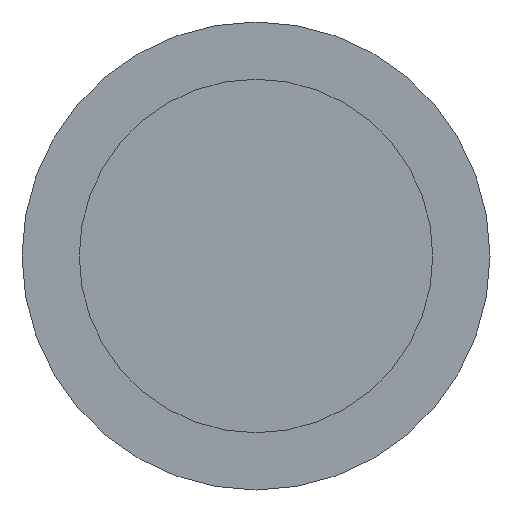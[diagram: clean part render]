
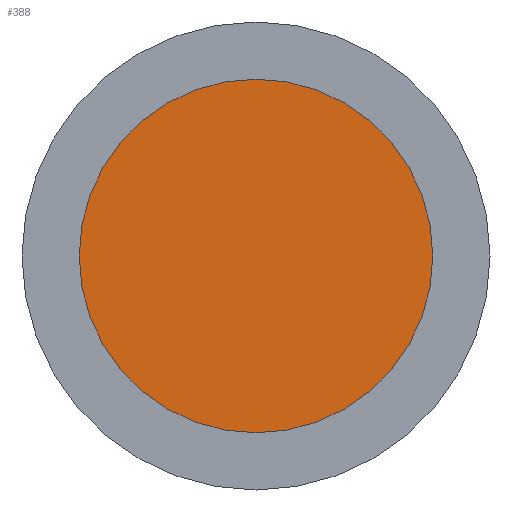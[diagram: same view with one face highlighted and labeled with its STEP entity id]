
A CAD part, front view. The second image highlights one B-rep face of the part: STEP entity #388.
In plain terms, the highlighted planar face has unit normal (0, -1, 0).
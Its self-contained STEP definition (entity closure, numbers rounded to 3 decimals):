
#345 = VERTEX_POINT('',#346);
#346 = CARTESIAN_POINT('',(12.5,-16.7,24.9));
#352 = EDGE_CURVE('',#345,#345,#353,.T.);
#353 = CIRCLE('',#354,3.4);
#354 = AXIS2_PLACEMENT_3D('',#355,#356,#357);
#355 = CARTESIAN_POINT('',(12.5,-16.7,21.5));
#356 = DIRECTION('',(0.,1.,0.));
#357 = DIRECTION('',(0.,0.,1.));
#388 = ADVANCED_FACE('',(#389),#392,.F.);
#389 = FACE_BOUND('',#390,.T.);
#390 = EDGE_LOOP('',(#391));
#391 = ORIENTED_EDGE('',*,*,#352,.F.);
#392 = PLANE('',#393);
#393 = AXIS2_PLACEMENT_3D('',#394,#395,#396);
#394 = CARTESIAN_POINT('',(12.5,-16.7,21.5));
#395 = DIRECTION('',(0.,1.,0.));
#396 = DIRECTION('',(0.,0.,1.));
